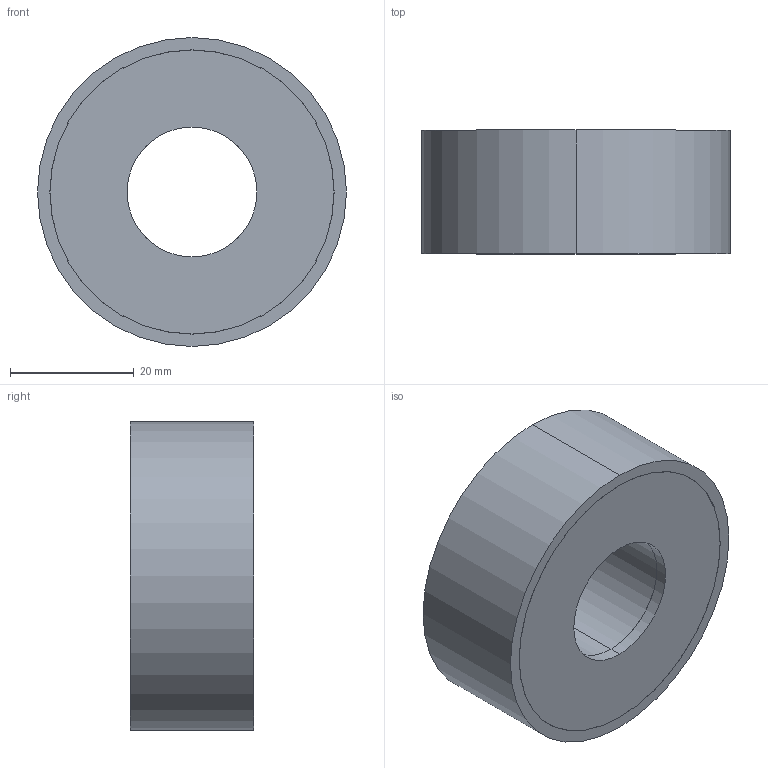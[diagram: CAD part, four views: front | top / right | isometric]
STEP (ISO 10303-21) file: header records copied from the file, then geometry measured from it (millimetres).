
FILE_DESCRIPTION (( 'STEP AP214' ), '1' );
FILE_NAME ('351-50-20-21-DD-70.step', '2025-07-23T10:11:41', ( '' ), ( '' ), 'SwSTEP 2.0', 'SolidWorks 2022', '' );
FILE_SCHEMA (( 'AUTOMOTIVE_DESIGN' ));
Length unit declared in the file: millimetre
Products named in the file (1): 351-50-20-21-DD-70
Bounding box: 50 x 20 x 50 mm (x, y, z)
Volume: 32342.7 mm3; surface area: 7703.8 mm2
Topology: 1 solids, 1 shells, 30 faces, 60 edges, 40 vertices
Faces by surface type: cylinder 20, plane 10
Entity records: 919 total; most frequent: DIRECTION 162, CARTESIAN_POINT 131, ORIENTED_EDGE 120, AXIS2_PLACEMENT_3D 71, EDGE_CURVE 60, CIRCLE 40, EDGE_LOOP 40, VERTEX_POINT 40
